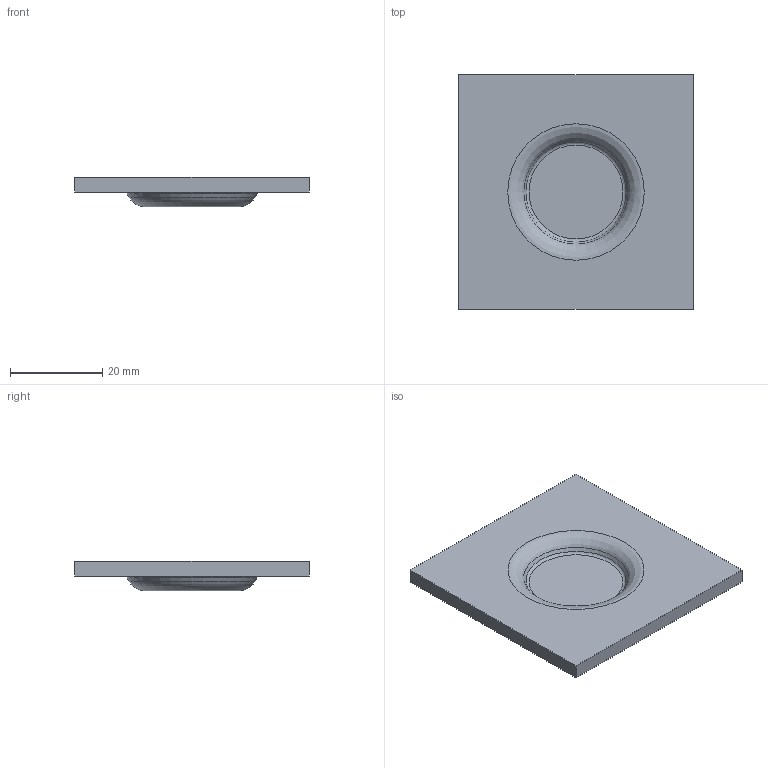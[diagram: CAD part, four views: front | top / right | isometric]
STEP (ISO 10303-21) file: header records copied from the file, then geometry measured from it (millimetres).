
FILE_DESCRIPTION((''),'1');
FILE_NAME('C:/Users/robertnolte/Desktop/WT#201-2645.stp','2012-03-29T18:15:09',(''),(''),'Spatial Interop R21 SP3','Kubotek KeyCreator 2011 V10.5.0 (24766)',' ');
FILE_SCHEMA(('CONFIG_CONTROL_DESIGN'));
Length unit declared in the file: inch
Products named in the file (1): 1
Bounding box: 50.8 x 50.8 x 6.35 mm (x, y, z)
Volume: 8520.9 mm3; surface area: 6012.6 mm2
Topology: 1 solids, 1 shells, 14 faces, 28 edges, 18 vertices
Faces by surface type: plane 8, torus 4, cone 2
Entity records: 360 total; most frequent: DIRECTION 58, CARTESIAN_POINT 51, ORIENTED_EDGE 40, AXIS2_PLACEMENT_3D 23, EDGE_LOOP 22, EDGE_CURVE 20, VERTEX_POINT 16, ADVANCED_FACE 14
